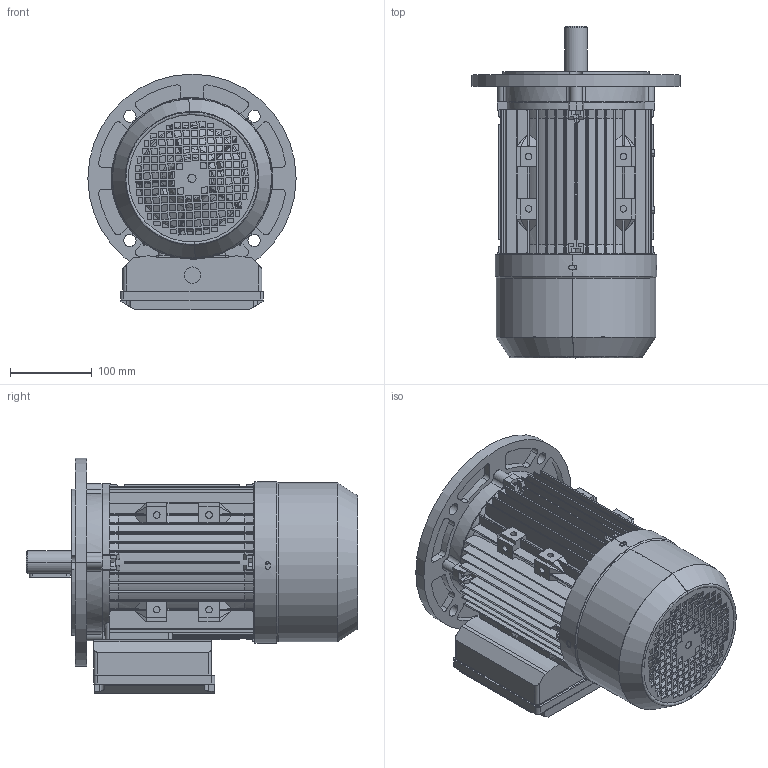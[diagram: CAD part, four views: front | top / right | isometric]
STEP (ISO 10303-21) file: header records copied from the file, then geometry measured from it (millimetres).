
FILE_DESCRIPTION (( 'STEP AP214' ), '1' );
FILE_NAME ('ML100_B5.STEP', '2017-06-29T12:41:35', ( '' ), ( '' ), 'SwSTEP 2.0', 'SolidWorks 2012', '' );
FILE_SCHEMA (( 'AUTOMOTIVE_DESIGN' ));
Length unit declared in the file: millimetre
Products named in the file (8): Klemmenkastendeckel_ML90; Klemmenkastenunterteil_ML90; Lüfterhaube_ML100; B5-Flansch_MS100; L黤terfl黦el_MS100; B-Lagerschild_MS100; Gehäuse_MS100; ML100_B5
Assembly tree (7 placements, depth 2):
  ML100_B5
    Gehäuse_MS100
    B-Lagerschild_MS100
    L黤terfl黦el_MS100
    B5-Flansch_MS100
    Lüfterhaube_ML100
    Klemmenkastenunterteil_ML90
    Klemmenkastendeckel_ML90
Bounding box: 255 x 406.31 x 288.5 mm (x, y, z)
Volume: 3043430.3 mm3; surface area: 1099734.4 mm2
Topology: 7 solids, 7 shells, 2184 faces, 6047 edges, 3929 vertices
Faces by surface type: plane 1326, cylinder 582, cone 142, bspline 134
Entity records: 79471 total; most frequent: CARTESIAN_POINT 23714, ORIENTED_EDGE 12090, DIRECTION 10705, EDGE_CURVE 6045, VERTEX_POINT 3929, LINE 3831, VECTOR 3831, AXIS2_PLACEMENT_3D 3437
